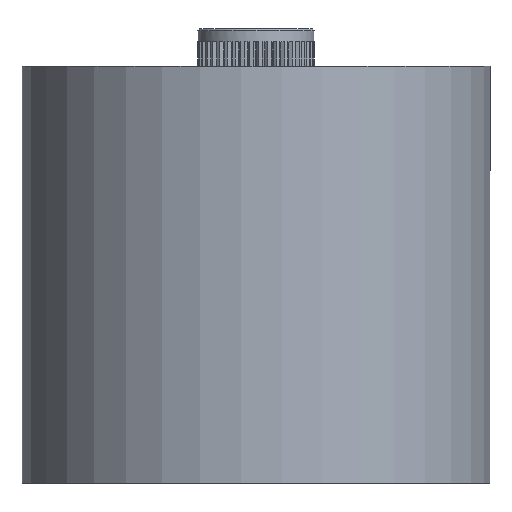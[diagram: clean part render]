
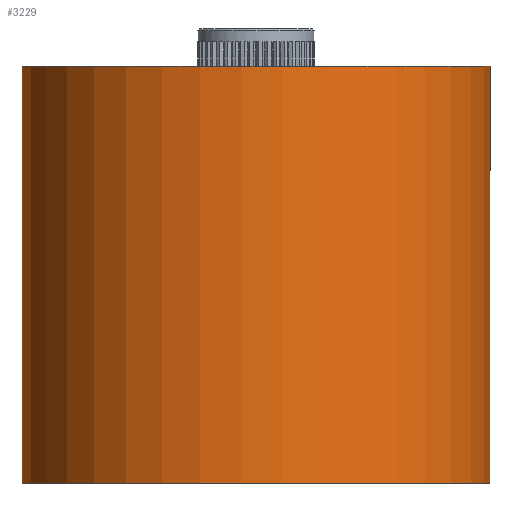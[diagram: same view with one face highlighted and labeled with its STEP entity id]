
A CAD part, front view. The second image highlights one B-rep face of the part: STEP entity #3229.
In plain terms, the highlighted cylindrical face has radius 16 mm (diameter 32 mm), a full revolution.
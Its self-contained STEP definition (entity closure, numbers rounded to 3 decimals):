
#2368=CARTESIAN_POINT('',(8.884,13.307,21.856));
#2369=VERTEX_POINT('',#2368);
#2370=CARTESIAN_POINT('',(0.,0.,21.856));
#2371=DIRECTION('',(0.0,0.0,-1.0));
#2372=DIRECTION('',(-0.555,-0.832,0.0));
#2373=AXIS2_PLACEMENT_3D('',#2370,#2371,#2372);
#2374=CIRCLE('',#2373,16.);
#2375=EDGE_CURVE('',#2369,#2369,#2374,.F.);
#3210=CARTESIAN_POINT('',(0.,0.,-6.604));
#3211=DIRECTION('',(0.0,0.0,1.0));
#3212=DIRECTION('',(-0.555,-0.832,0.0));
#3213=AXIS2_PLACEMENT_3D('',#3210,#3211,#3212);
#3214=CYLINDRICAL_SURFACE('',#3213,16.);
#3215=ORIENTED_EDGE('',*,*,#2375,.F.);
#3216=EDGE_LOOP('',(#3215));
#3217=FACE_OUTER_BOUND('',#3216,.T.);
#3218=CARTESIAN_POINT('',(8.884,13.307,-6.604));
#3219=VERTEX_POINT('',#3218);
#3220=CARTESIAN_POINT('',(0.,0.,-6.604));
#3221=DIRECTION('',(0.0,0.0,1.0));
#3222=DIRECTION('',(-0.555,-0.832,0.0));
#3223=AXIS2_PLACEMENT_3D('',#3220,#3221,#3222);
#3224=CIRCLE('',#3223,16.);
#3225=EDGE_CURVE('',#3219,#3219,#3224,.F.);
#3226=ORIENTED_EDGE('',*,*,#3225,.F.);
#3227=EDGE_LOOP('',(#3226));
#3228=FACE_BOUND('',#3227,.T.);
#3229=ADVANCED_FACE('',(#3217,#3228),#3214,.T.);
